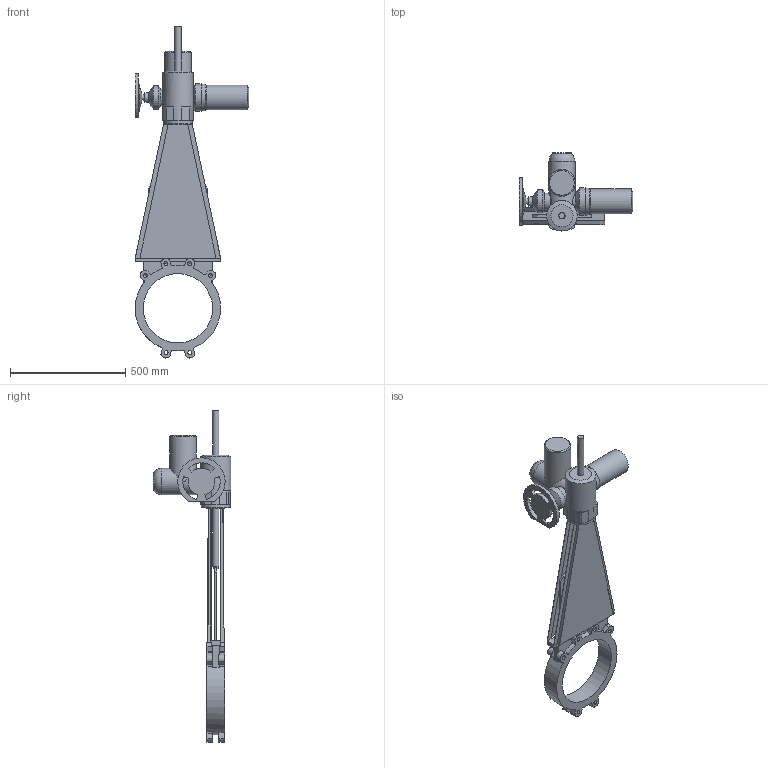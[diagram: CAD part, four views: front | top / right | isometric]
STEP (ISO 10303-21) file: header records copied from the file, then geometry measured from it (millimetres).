
FILE_DESCRIPTION(('STEP AP203'), '1');
FILE_NAME('K21GVA_DN300+MT903.A 10', '', ('UNSPECIFIED'), ('UNSPECIFIED'), 'ASCON STEP Converter 1.6', 'ASCON Math Kernel', '');
FILE_SCHEMA(('CONFIG_CONTROL_DESIGN'));
Length unit declared in the file: millimetre
Bounding box: 494 x 338 x 1438.7 mm (x, y, z)
Volume: 15555185.5 mm3; surface area: 1628060.5 mm2
Topology: 1 solids, 1 shells, 276 faces, 756 edges, 489 vertices
Faces by surface type: plane 162, cylinder 95, cone 18, torus 1
Full cylindrical faces by diameter (mm): 8.5 x4, 12 x4, 17.294 x12, 24 x1, 28 x2, 42 x1, 66 x1, 72 x1, 80 x2, 100 x1, 108 x1, 114 x1, 115 x1, 116 x1, 119 x1, 125 x1, 132 x1, 300 x1
Entity records: 11777 total; most frequent: CARTESIAN_POINT 2591, DIRECTION 1463, ORIENTED_EDGE 1382, EDGE_CURVE 691, AXIS2_PLACEMENT_3D 514, VERTEX_POINT 481, LINE 435, VECTOR 435
